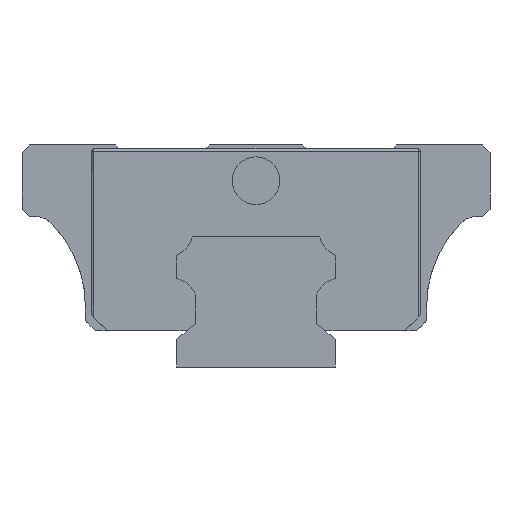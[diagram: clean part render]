
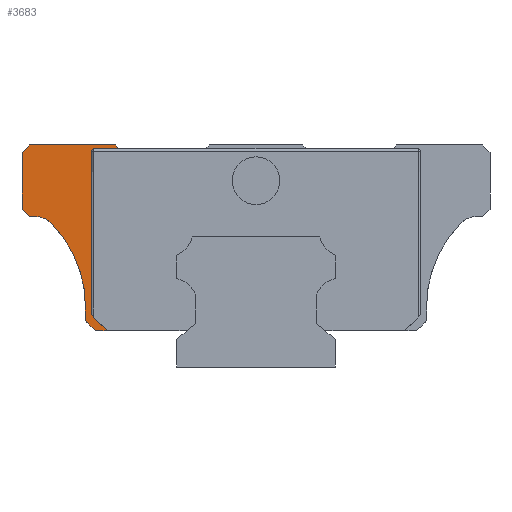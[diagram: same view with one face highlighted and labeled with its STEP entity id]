
A CAD part, left-side view. The second image highlights one B-rep face of the part: STEP entity #3683.
In plain terms, the highlighted planar face has unit normal (-1, 0, 0).
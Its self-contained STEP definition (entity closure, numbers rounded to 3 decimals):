
#92 = DIRECTION ( 'NONE',  ( 0., 0., 1. ) ) ;
#148 = CARTESIAN_POINT ( 'NONE',  ( -13.9, 36.5, 7.6 ) ) ;
#179 = VECTOR ( 'NONE', #925, 1000. ) ;
#243 = DIRECTION ( 'NONE',  ( 1., 0., 0. ) ) ;
#429 = EDGE_CURVE ( 'NONE', #6912, #5895, #4439, .T. ) ;
#554 = AXIS2_PLACEMENT_3D ( 'NONE', #1824, #1674, #92 ) ;
#556 = EDGE_CURVE ( 'NONE', #2690, #1341, #1765, .T. ) ;
#571 = CARTESIAN_POINT ( 'NONE',  ( -13.9, 28.6, 19. ) ) ;
#622 = DIRECTION ( 'NONE',  ( 0., 0., -1. ) ) ;
#764 = EDGE_CURVE ( 'NONE', #6640, #6467, #1782, .T. ) ;
#802 = VECTOR ( 'NONE', #5468, 1000. ) ;
#872 = LINE ( 'NONE', #3120, #6819 ) ;
#889 = EDGE_CURVE ( 'NONE', #4330, #5214, #891, .T. ) ;
#891 = LINE ( 'NONE', #3176, #179 ) ;
#896 = CARTESIAN_POINT ( 'NONE',  ( -13.9, 17.7, 28. ) ) ;
#925 = DIRECTION ( 'NONE',  ( 0., 0.707, -0.707 ) ) ;
#931 = DIRECTION ( 'NONE',  ( 0., 0.643, 0.766 ) ) ;
#939 = CARTESIAN_POINT ( 'NONE',  ( -13.9, 21.5, 5.85 ) ) ;
#1004 = PLANE ( 'NONE',  #3072 ) ;
#1124 = CARTESIAN_POINT ( 'NONE',  ( -13.9, 27.93, 19. ) ) ;
#1341 = VERTEX_POINT ( 'NONE', #7267 ) ;
#1343 = CARTESIAN_POINT ( 'NONE',  ( -13.9, 29.5, 28. ) ) ;
#1391 = EDGE_CURVE ( 'NONE', #1341, #4847, #2094, .T. ) ;
#1549 = CARTESIAN_POINT ( 'NONE',  ( -13.9, 21.5, 7.6 ) ) ;
#1576 = LINE ( 'NONE', #1645, #802 ) ;
#1630 = LINE ( 'NONE', #6563, #2175 ) ;
#1645 = CARTESIAN_POINT ( 'NONE',  ( -13.9, 29.5, 19.9 ) ) ;
#1674 = DIRECTION ( 'NONE',  ( 1., 0., 0. ) ) ;
#1749 = VERTEX_POINT ( 'NONE', #5497 ) ;
#1765 = CIRCLE ( 'NONE', #5866, 15. ) ;
#1782 = LINE ( 'NONE', #1816, #4445 ) ;
#1816 = CARTESIAN_POINT ( 'NONE',  ( -13.9, 28.6, 19. ) ) ;
#1824 = CARTESIAN_POINT ( 'NONE',  ( -13.9, 20.457, 27.205 ) ) ;
#1841 = EDGE_LOOP ( 'NONE', ( #6799, #5686, #5204, #3174, #7200, #6188, #7270, #5942, #4631, #6687, #6163, #4414, #6002, #4516, #3550 ) ) ;
#1899 = CIRCLE ( 'NONE', #2833, 3. ) ;
#1970 = DIRECTION ( 'NONE',  ( 0., 0., -1. ) ) ;
#2094 = LINE ( 'NONE', #1549, #7179 ) ;
#2175 = VECTOR ( 'NONE', #931, 1000. ) ;
#2196 = DIRECTION ( 'NONE',  ( 0., 0., -1. ) ) ;
#2264 = EDGE_CURVE ( 'NONE', #4027, #6912, #3276, .T. ) ;
#2354 = DIRECTION ( 'NONE',  ( 0., -0.707, -0.707 ) ) ;
#2384 = DIRECTION ( 'NONE',  ( 1., 0., 0. ) ) ;
#2622 = DIRECTION ( 'NONE',  ( 0., 1., 0. ) ) ;
#2658 = LINE ( 'NONE', #896, #5294 ) ;
#2685 = LINE ( 'NONE', #5512, #7244 ) ;
#2690 = VERTEX_POINT ( 'NONE', #4729 ) ;
#2790 = EDGE_CURVE ( 'NONE', #6175, #5895, #872, .T. ) ;
#2796 = CARTESIAN_POINT ( 'NONE',  ( -13.9, 20.752, 26.875 ) ) ;
#2833 = AXIS2_PLACEMENT_3D ( 'NONE', #3578, #243, #5310 ) ;
#3072 = AXIS2_PLACEMENT_3D ( 'NONE', #5967, #5453, #3140 ) ;
#3120 = CARTESIAN_POINT ( 'NONE',  ( -13.9, 18.542, 4.6 ) ) ;
#3140 = DIRECTION ( 'NONE',  ( 0., 0., 1. ) ) ;
#3160 = EDGE_CURVE ( 'NONE', #5214, #3970, #6414, .T. ) ;
#3164 = EDGE_CURVE ( 'NONE', #6467, #2690, #1899, .T. ) ;
#3174 = ORIENTED_EDGE ( 'NONE', *, *, #556, .T. ) ;
#3176 = CARTESIAN_POINT ( 'NONE',  ( -13.9, 28.55, 28. ) ) ;
#3208 = VERTEX_POINT ( 'NONE', #4756 ) ;
#3218 = VECTOR ( 'NONE', #2354, 1000. ) ;
#3276 = LINE ( 'NONE', #2796, #3560 ) ;
#3494 = CARTESIAN_POINT ( 'NONE',  ( -13.9, 20.752, 27.205 ) ) ;
#3550 = ORIENTED_EDGE ( 'NONE', *, *, #3160, .T. ) ;
#3560 = VECTOR ( 'NONE', #622, 1000. ) ;
#3578 = CARTESIAN_POINT ( 'NONE',  ( -13.9, 27.93, 16. ) ) ;
#3662 = EDGE_CURVE ( 'NONE', #1749, #4330, #2658, .T. ) ;
#3683 = ADVANCED_FACE ( 'NONE', ( #7073 ), #1004, .T. ) ;
#3692 = VERTEX_POINT ( 'NONE', #5485 ) ;
#3839 = CARTESIAN_POINT ( 'NONE',  ( -13.9, 20.752, 6.6 ) ) ;
#3891 = CARTESIAN_POINT ( 'NONE',  ( -13.9, 20.752, 6.6 ) ) ;
#3970 = VERTEX_POINT ( 'NONE', #4016 ) ;
#3997 = EDGE_CURVE ( 'NONE', #4847, #6175, #4741, .T. ) ;
#4016 = CARTESIAN_POINT ( 'NONE',  ( -13.9, 29.5, 19.9 ) ) ;
#4027 = VERTEX_POINT ( 'NONE', #3494 ) ;
#4070 = DIRECTION ( 'NONE',  ( 0., 0., 1. ) ) ;
#4080 = CARTESIAN_POINT ( 'NONE',  ( -13.9, 21.5, 5.85 ) ) ;
#4124 = DIRECTION ( 'NONE',  ( 0., -1., 0. ) ) ;
#4133 = CARTESIAN_POINT ( 'NONE',  ( -13.9, 29.5, 27.05 ) ) ;
#4298 = DIRECTION ( 'NONE',  ( 0., -1., 0. ) ) ;
#4330 = VERTEX_POINT ( 'NONE', #6426 ) ;
#4414 = ORIENTED_EDGE ( 'NONE', *, *, #7263, .T. ) ;
#4439 = LINE ( 'NONE', #3891, #4521 ) ;
#4445 = VECTOR ( 'NONE', #4124, 1000. ) ;
#4516 = ORIENTED_EDGE ( 'NONE', *, *, #889, .T. ) ;
#4521 = VECTOR ( 'NONE', #6758, 1000. ) ;
#4631 = ORIENTED_EDGE ( 'NONE', *, *, #2264, .F. ) ;
#4729 = CARTESIAN_POINT ( 'NONE',  ( -13.9, 25.788, 18.1 ) ) ;
#4741 = LINE ( 'NONE', #4080, #3218 ) ;
#4756 = CARTESIAN_POINT ( 'NONE',  ( -13.9, 17.28, 27.5 ) ) ;
#4847 = VERTEX_POINT ( 'NONE', #939 ) ;
#5014 = EDGE_CURVE ( 'NONE', #4027, #3692, #5844, .T. ) ;
#5204 = ORIENTED_EDGE ( 'NONE', *, *, #3164, .T. ) ;
#5214 = VERTEX_POINT ( 'NONE', #4133 ) ;
#5294 = VECTOR ( 'NONE', #2622, 1000. ) ;
#5310 = DIRECTION ( 'NONE',  ( 0., 0., 1. ) ) ;
#5408 = DIRECTION ( 'NONE',  ( 0., 1., 0. ) ) ;
#5453 = DIRECTION ( 'NONE',  ( -1., 0., 0. ) ) ;
#5468 = DIRECTION ( 'NONE',  ( 0., -0.707, -0.707 ) ) ;
#5485 = CARTESIAN_POINT ( 'NONE',  ( -13.9, 20.457, 27.5 ) ) ;
#5497 = CARTESIAN_POINT ( 'NONE',  ( -13.9, 17.7, 28. ) ) ;
#5512 = CARTESIAN_POINT ( 'NONE',  ( -13.9, -20.542, 27.5 ) ) ;
#5660 = EDGE_CURVE ( 'NONE', #3208, #3692, #2685, .T. ) ;
#5686 = ORIENTED_EDGE ( 'NONE', *, *, #764, .T. ) ;
#5844 = CIRCLE ( 'NONE', #554, 0.295 ) ;
#5866 = AXIS2_PLACEMENT_3D ( 'NONE', #148, #2384, #4070 ) ;
#5895 = VERTEX_POINT ( 'NONE', #6688 ) ;
#5942 = ORIENTED_EDGE ( 'NONE', *, *, #429, .F. ) ;
#5967 = CARTESIAN_POINT ( 'NONE',  ( -13.9, 0., 17.29 ) ) ;
#6002 = ORIENTED_EDGE ( 'NONE', *, *, #3662, .T. ) ;
#6011 = VECTOR ( 'NONE', #1970, 1000. ) ;
#6163 = ORIENTED_EDGE ( 'NONE', *, *, #5660, .F. ) ;
#6175 = VERTEX_POINT ( 'NONE', #7124 ) ;
#6188 = ORIENTED_EDGE ( 'NONE', *, *, #3997, .T. ) ;
#6405 = EDGE_CURVE ( 'NONE', #3970, #6640, #1576, .T. ) ;
#6414 = LINE ( 'NONE', #1343, #6011 ) ;
#6426 = CARTESIAN_POINT ( 'NONE',  ( -13.9, 28.55, 28. ) ) ;
#6467 = VERTEX_POINT ( 'NONE', #1124 ) ;
#6563 = CARTESIAN_POINT ( 'NONE',  ( -13.9, 17.228, 27.438 ) ) ;
#6640 = VERTEX_POINT ( 'NONE', #571 ) ;
#6687 = ORIENTED_EDGE ( 'NONE', *, *, #5014, .T. ) ;
#6688 = CARTESIAN_POINT ( 'NONE',  ( -13.9, 18.752, 4.6 ) ) ;
#6758 = DIRECTION ( 'NONE',  ( 0., -0.707, -0.707 ) ) ;
#6799 = ORIENTED_EDGE ( 'NONE', *, *, #6405, .T. ) ;
#6819 = VECTOR ( 'NONE', #4298, 1000. ) ;
#6912 = VERTEX_POINT ( 'NONE', #3839 ) ;
#7073 = FACE_OUTER_BOUND ( 'NONE', #1841, .T. ) ;
#7124 = CARTESIAN_POINT ( 'NONE',  ( -13.9, 20.25, 4.6 ) ) ;
#7179 = VECTOR ( 'NONE', #2196, 1000. ) ;
#7200 = ORIENTED_EDGE ( 'NONE', *, *, #1391, .T. ) ;
#7244 = VECTOR ( 'NONE', #5408, 1000. ) ;
#7263 = EDGE_CURVE ( 'NONE', #3208, #1749, #1630, .T. ) ;
#7267 = CARTESIAN_POINT ( 'NONE',  ( -13.9, 21.5, 7.6 ) ) ;
#7270 = ORIENTED_EDGE ( 'NONE', *, *, #2790, .T. ) ;
